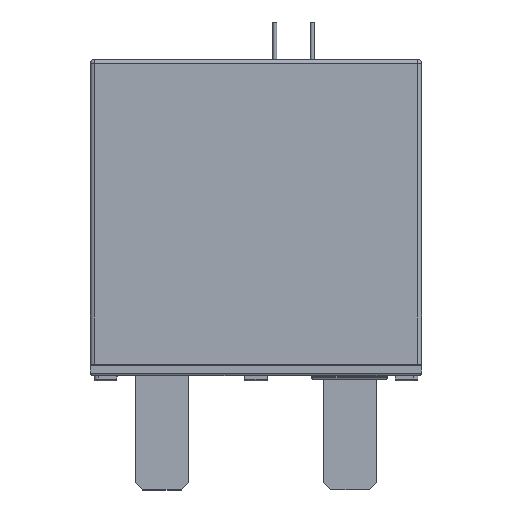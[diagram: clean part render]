
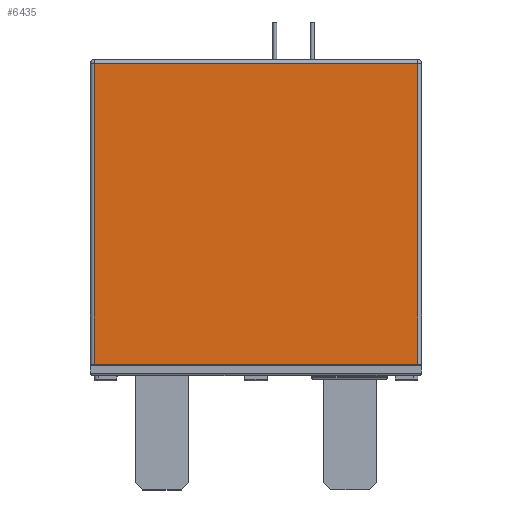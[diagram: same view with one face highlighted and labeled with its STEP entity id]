
A CAD part, top view. The second image highlights one B-rep face of the part: STEP entity #6435.
In plain terms, the highlighted planar face has unit normal (0, 0, 1).
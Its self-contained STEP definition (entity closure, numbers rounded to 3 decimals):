
#2031=DIRECTION('',(1.,0.,0.));
#2032=VECTOR('',#2031,43.);
#2033=CARTESIAN_POINT('',(-21.5,1.5,9.25));
#2034=LINE('',#2033,#2032);
#2696=DIRECTION('',(0.,-1.,0.));
#2697=VECTOR('',#2696,40.);
#2698=CARTESIAN_POINT('',(21.5,41.5,9.25));
#2699=LINE('',#2698,#2697);
#2703=DIRECTION('',(0.,-1.,0.));
#2704=VECTOR('',#2703,40.);
#2705=CARTESIAN_POINT('',(-21.5,41.5,9.25));
#2706=LINE('',#2705,#2704);
#2710=DIRECTION('',(1.,0.,0.));
#2711=VECTOR('',#2710,43.);
#2712=CARTESIAN_POINT('',(-21.5,41.5,9.25));
#2713=LINE('',#2712,#2711);
#3904=CARTESIAN_POINT('',(21.5,1.5,9.25));
#3906=VERTEX_POINT('',#3904);
#3907=CARTESIAN_POINT('',(21.5,41.5,9.25));
#3908=VERTEX_POINT('',#3907);
#3935=CARTESIAN_POINT('',(-21.5,1.5,9.25));
#3937=VERTEX_POINT('',#3935);
#3939=CARTESIAN_POINT('',(-21.5,41.5,9.25));
#3940=VERTEX_POINT('',#3939);
#6422=CARTESIAN_POINT('',(-22.,1.5,9.25));
#6423=DIRECTION('',(0.,0.,1.));
#6424=DIRECTION('',(1.,0.,0.));
#6425=AXIS2_PLACEMENT_3D('',#6422,#6423,#6424);
#6426=PLANE('',#6425);
#6427=ORIENTED_EDGE('',*,*,#6413,.T.);
#6428=ORIENTED_EDGE('',*,*,#5732,.F.);
#6430=ORIENTED_EDGE('',*,*,#6429,.F.);
#6432=ORIENTED_EDGE('',*,*,#6431,.T.);
#6433=EDGE_LOOP('',(#6427,#6428,#6430,#6432));
#6434=FACE_OUTER_BOUND('',#6433,.F.);
#6435=ADVANCED_FACE('',(#6434),#6426,.T.);
#5732=EDGE_CURVE('',#3937,#3906,#2034,.T.);
#6413=EDGE_CURVE('',#3908,#3906,#2699,.T.);
#6429=EDGE_CURVE('',#3940,#3937,#2706,.T.);
#6431=EDGE_CURVE('',#3940,#3908,#2713,.T.);
